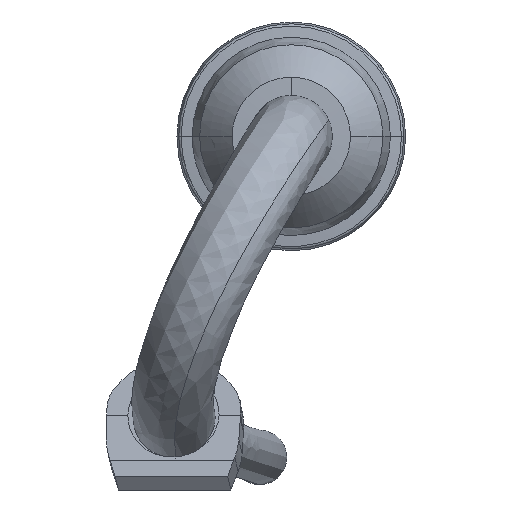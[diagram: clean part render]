
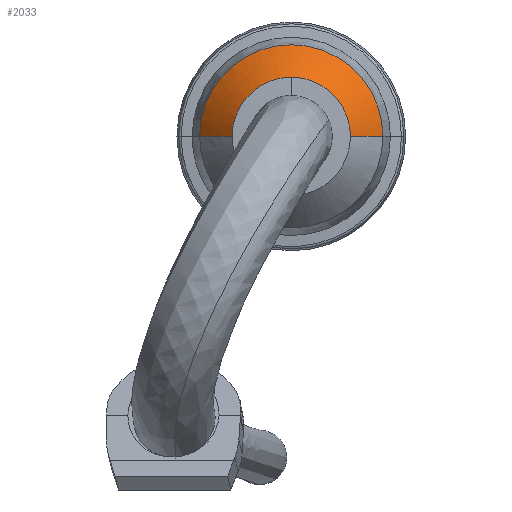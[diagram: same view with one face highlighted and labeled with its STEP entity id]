
A CAD part, left-side view. The second image highlights one B-rep face of the part: STEP entity #2033.
In plain terms, the highlighted toroidal (fillet/blend) face has major radius 495.487 mm and minor radius 759.141 mm.
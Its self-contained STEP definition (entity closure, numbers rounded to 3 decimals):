
#479 = ORIENTED_EDGE ( 'NONE', *, *, #10202, .F. ) ;
#701 = EDGE_CURVE ( 'NONE', #16476, #6546, #16141, .T. ) ;
#886 = DIRECTION ( 'NONE',  ( 0., 1., 0. ) ) ;
#927 = CARTESIAN_POINT ( 'NONE',  ( -60., 0., 1865. ) ) ;
#1515 = CIRCLE ( 'NONE', #15088, 65. ) ;
#1737 = DIRECTION ( 'NONE',  ( 1., 0., 0. ) ) ;
#2033 = ADVANCED_FACE ( 'NONE', ( #10365 ), #19882, .T. ) ;
#2842 = AXIS2_PLACEMENT_3D ( 'NONE', #17096, #1737, #13207 ) ;
#3194 = DIRECTION ( 'NONE',  ( 0., 0., -1. ) ) ;
#3236 = ORIENTED_EDGE ( 'NONE', *, *, #6433, .F. ) ;
#4563 = ORIENTED_EDGE ( 'NONE', *, *, #25023, .T. ) ;
#5902 = CARTESIAN_POINT ( 'NONE',  ( -60., 0., 1800. ) ) ;
#6433 = EDGE_CURVE ( 'NONE', #16476, #20258, #14609, .T. ) ;
#6546 = VERTEX_POINT ( 'NONE', #14349 ) ;
#7439 = DIRECTION ( 'NONE',  ( 0., 0., 1. ) ) ;
#7560 = DIRECTION ( 'NONE',  ( 1., 0., 0. ) ) ;
#8685 = DIRECTION ( 'NONE',  ( 0., 0., 1. ) ) ;
#10202 = EDGE_CURVE ( 'NONE', #20258, #12200, #15057, .T. ) ;
#10365 = FACE_OUTER_BOUND ( 'NONE', #24382, .T. ) ;
#10395 = AXIS2_PLACEMENT_3D ( 'NONE', #15807, #16073, #16200 ) ;
#12153 = DIRECTION ( 'NONE',  ( 1., 0., 0. ) ) ;
#12200 = VERTEX_POINT ( 'NONE', #14180 ) ;
#12738 = CARTESIAN_POINT ( 'NONE',  ( 452.005, 495.487, 1800. ) ) ;
#13207 = DIRECTION ( 'NONE',  ( 0., 0., 1. ) ) ;
#14119 = CARTESIAN_POINT ( 'NONE',  ( 452.005, -495.487, 1800. ) ) ;
#14180 = CARTESIAN_POINT ( 'NONE',  ( -60., -65., 1800. ) ) ;
#14349 = CARTESIAN_POINT ( 'NONE',  ( -60., 65., 1800. ) ) ;
#14609 = CIRCLE ( 'NONE', #17929, 100.659 ) ;
#15057 = CIRCLE ( 'NONE', #22084, 759.141 ) ;
#15088 = AXIS2_PLACEMENT_3D ( 'NONE', #5902, #7560, #7439 ) ;
#15353 = CARTESIAN_POINT ( 'NONE',  ( -18., -100.659, 1800. ) ) ;
#15807 = CARTESIAN_POINT ( 'NONE',  ( 452.005, 0., 1800. ) ) ;
#16052 = CARTESIAN_POINT ( 'NONE',  ( -18., 0., 1800. ) ) ;
#16073 = DIRECTION ( 'NONE',  ( -1., 0., 0. ) ) ;
#16141 = CIRCLE ( 'NONE', #24378, 759.141 ) ;
#16200 = DIRECTION ( 'NONE',  ( 0., 1., 0. ) ) ;
#16464 = DIRECTION ( 'NONE',  ( 0., -1., 0. ) ) ;
#16476 = VERTEX_POINT ( 'NONE', #22537 ) ;
#17096 = CARTESIAN_POINT ( 'NONE',  ( -60., 0., 1800. ) ) ;
#17929 = AXIS2_PLACEMENT_3D ( 'NONE', #16052, #12153, #21616 ) ;
#18708 = EDGE_CURVE ( 'NONE', #6546, #20186, #1515, .T. ) ;
#19882 = TOROIDAL_SURFACE ( 'NONE', #10395, -495.487, 759.141 ) ;
#20186 = VERTEX_POINT ( 'NONE', #927 ) ;
#20258 = VERTEX_POINT ( 'NONE', #15353 ) ;
#20401 = ORIENTED_EDGE ( 'NONE', *, *, #18708, .T. ) ;
#21616 = DIRECTION ( 'NONE',  ( 0., 1., 0. ) ) ;
#22084 = AXIS2_PLACEMENT_3D ( 'NONE', #12738, #3194, #886 ) ;
#22537 = CARTESIAN_POINT ( 'NONE',  ( -18., 100.659, 1800. ) ) ;
#23465 = CIRCLE ( 'NONE', #2842, 65. ) ;
#23989 = ORIENTED_EDGE ( 'NONE', *, *, #701, .T. ) ;
#24378 = AXIS2_PLACEMENT_3D ( 'NONE', #14119, #8685, #16464 ) ;
#24382 = EDGE_LOOP ( 'NONE', ( #479, #3236, #23989, #20401, #4563 ) ) ;
#25023 = EDGE_CURVE ( 'NONE', #20186, #12200, #23465, .T. ) ;
